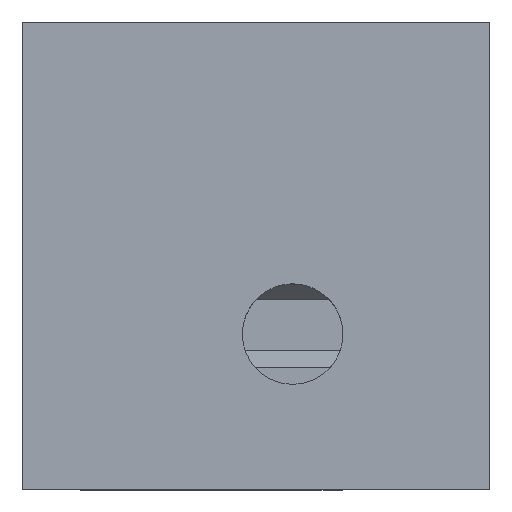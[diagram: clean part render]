
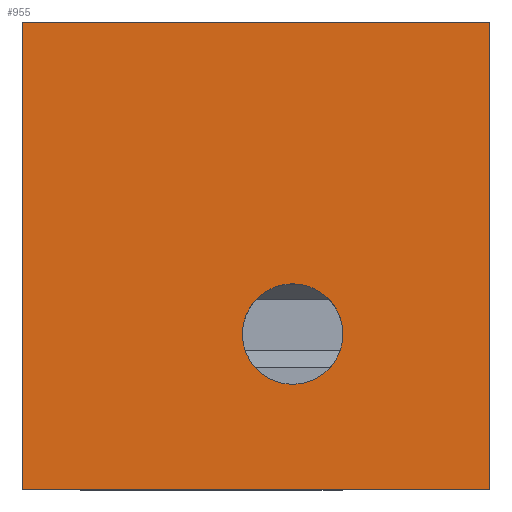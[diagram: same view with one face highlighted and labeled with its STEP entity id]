
A CAD part, top view. The second image highlights one B-rep face of the part: STEP entity #955.
In plain terms, the highlighted planar face has unit normal (0, 0, 1).
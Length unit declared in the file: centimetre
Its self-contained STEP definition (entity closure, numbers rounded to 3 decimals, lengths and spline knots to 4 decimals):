
#9 = VERTEX_POINT ( 'NONE', #775 ) ;
#31 = VECTOR ( 'NONE', #338, 100. ) ;
#36 = CARTESIAN_POINT ( 'NONE',  ( 1000., 0., 1000. ) ) ;
#42 = ORIENTED_EDGE ( 'NONE', *, *, #921, .T. ) ;
#50 = ORIENTED_EDGE ( 'NONE', *, *, #643, .T. ) ;
#62 = DIRECTION ( 'NONE',  ( 1., 0., 0. ) ) ;
#63 = VECTOR ( 'NONE', #801, 100. ) ;
#78 = DIRECTION ( 'NONE',  ( 1., 0., 0. ) ) ;
#104 = VERTEX_POINT ( 'NONE', #572 ) ;
#123 = LINE ( 'NONE', #931, #63 ) ;
#144 = EDGE_CURVE ( 'NONE', #976, #289, #836, .T. ) ;
#145 = CARTESIAN_POINT ( 'NONE',  ( 470.7692, 331.9931, 1000. ) ) ;
#151 = VECTOR ( 'NONE', #262, 100. ) ;
#223 = ORIENTED_EDGE ( 'NONE', *, *, #552, .T. ) ;
#262 = DIRECTION ( 'NONE',  ( 0., 1., 0. ) ) ;
#269 = VECTOR ( 'NONE', #551, 100. ) ;
#282 = ORIENTED_EDGE ( 'NONE', *, *, #841, .T. ) ;
#289 = VERTEX_POINT ( 'NONE', #482 ) ;
#306 = FACE_BOUND ( 'NONE', #777, .T. ) ;
#311 = LINE ( 'NONE', #631, #269 ) ;
#338 = DIRECTION ( 'NONE',  ( 0., -1., 0. ) ) ;
#374 = DIRECTION ( 'NONE',  ( 0., 0., 1. ) ) ;
#401 = AXIS2_PLACEMENT_3D ( 'NONE', #697, #374, #62 ) ;
#470 = PLANE ( 'NONE',  #401 ) ;
#472 = EDGE_CURVE ( 'NONE', #289, #976, #860, .T. ) ;
#478 = AXIS2_PLACEMENT_3D ( 'NONE', #573, #896, #78 ) ;
#482 = CARTESIAN_POINT ( 'NONE',  ( 686.0553, 331.9931, 1000. ) ) ;
#530 = CARTESIAN_POINT ( 'NONE',  ( 1000., 1000., 1000. ) ) ;
#532 = ORIENTED_EDGE ( 'NONE', *, *, #472, .F. ) ;
#551 = DIRECTION ( 'NONE',  ( -1., 0., 0. ) ) ;
#552 = EDGE_CURVE ( 'NONE', #104, #9, #565, .T. ) ;
#565 = LINE ( 'NONE', #890, #31 ) ;
#572 = CARTESIAN_POINT ( 'NONE',  ( 0., 1000., 1000. ) ) ;
#573 = CARTESIAN_POINT ( 'NONE',  ( 578.4122, 331.9931, 1000. ) ) ;
#619 = VERTEX_POINT ( 'NONE', #36 ) ;
#631 = CARTESIAN_POINT ( 'NONE',  ( 0., 1000., 1000. ) ) ;
#643 = EDGE_CURVE ( 'NONE', #619, #741, #902, .T. ) ;
#646 = EDGE_LOOP ( 'NONE', ( #223, #282, #50, #42 ) ) ;
#697 = CARTESIAN_POINT ( 'NONE',  ( 0., 0., 1000. ) ) ;
#741 = VERTEX_POINT ( 'NONE', #530 ) ;
#775 = CARTESIAN_POINT ( 'NONE',  ( 0., 0., 1000. ) ) ;
#777 = EDGE_LOOP ( 'NONE', ( #532, #930 ) ) ;
#801 = DIRECTION ( 'NONE',  ( 1., 0., 0. ) ) ;
#805 = CARTESIAN_POINT ( 'NONE',  ( 578.4122, 331.9931, 1000. ) ) ;
#836 = CIRCLE ( 'NONE', #1040, 107.6431 ) ;
#841 = EDGE_CURVE ( 'NONE', #9, #619, #123, .T. ) ;
#860 = CIRCLE ( 'NONE', #478, 107.6431 ) ;
#882 = DIRECTION ( 'NONE',  ( 1., 0., 0. ) ) ;
#890 = CARTESIAN_POINT ( 'NONE',  ( 0., 1000., 1000. ) ) ;
#896 = DIRECTION ( 'NONE',  ( 0., 0., 1. ) ) ;
#902 = LINE ( 'NONE', #992, #151 ) ;
#921 = EDGE_CURVE ( 'NONE', #741, #104, #311, .T. ) ;
#930 = ORIENTED_EDGE ( 'NONE', *, *, #144, .F. ) ;
#931 = CARTESIAN_POINT ( 'NONE',  ( 0., 0., 1000. ) ) ;
#949 = FACE_OUTER_BOUND ( 'NONE', #646, .T. ) ;
#955 = ADVANCED_FACE ( 'NONE', ( #306, #949 ), #470, .T. ) ;
#957 = DIRECTION ( 'NONE',  ( 0., 0., 1. ) ) ;
#976 = VERTEX_POINT ( 'NONE', #145 ) ;
#992 = CARTESIAN_POINT ( 'NONE',  ( 1000., 1000., 1000. ) ) ;
#1040 = AXIS2_PLACEMENT_3D ( 'NONE', #805, #957, #882 ) ;
